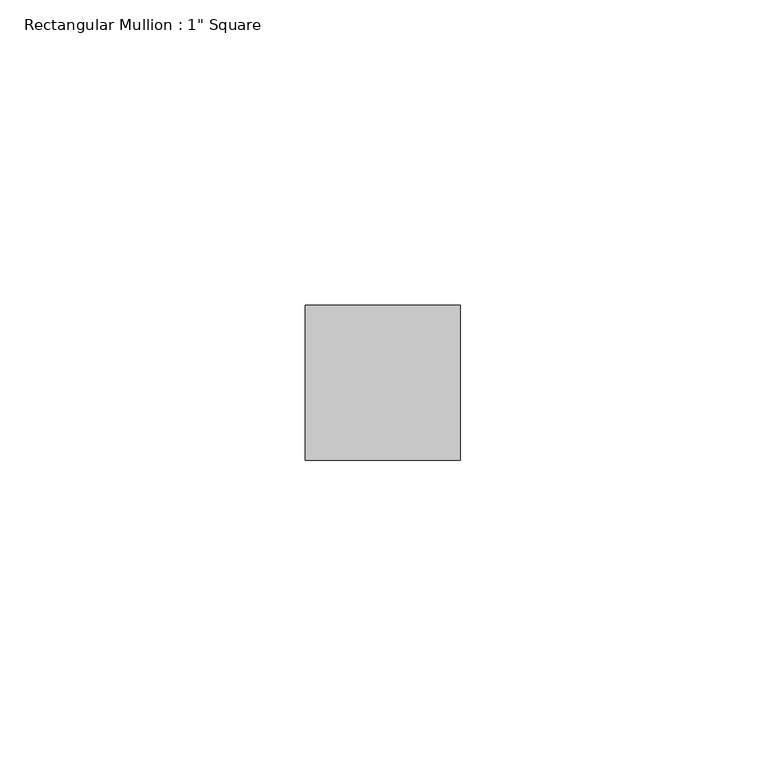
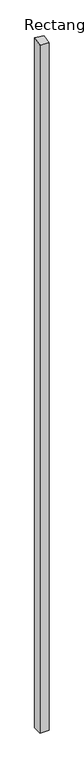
"""IFC4 building model written with IfcOpenShell, lengths in millimetres: member geometry."""

from ifc_helpers import new_model, si_unit, origin, place, context, project, spatial, faceted_brep, source, transform, mapped, element, save


def member_f72df3a2(model_context):
    return source(origin(), model_context, "Body", "Brep", [
        faceted_brep([(12.7, 12.7, -2022.8247208), (12.7, -12.7, -2022.8247208), (-12.7, -12.7, -2022.8247208), (-12.7, 12.7, -2022.8247208), (-12.7, 12.7, 3.9383109), (12.7, 12.7, 1.8614515), (-12.7, -12.7, -1.8614515), (12.7, -12.7, -3.9383109)], [[[0, 1, 2, 3]], [[4, 5, 0, 3]], [[6, 4, 3, 2]], [[7, 6, 2, 1]], [[5, 7, 1, 0]], [[5, 4, 6, 7]]]),
    ])


if __name__ == "__main__":
    model = new_model("IFC4")
    model_context = context("Model", 3, world=origin())
    ifc_project = project(units=[si_unit("LENGTHUNIT", "METRE", prefix="MILLI")], contexts=[model_context])
    site = spatial("IfcSite", under=ifc_project)
    building = spatial("IfcBuilding", under=site)
    placement = place(None, origin())
    member_shape = member_f72df3a2(model_context)
    element("IfcMember", 1, ObjectType="Rectangular Mullion : 1\" Square", at=placement, inside=building, context=model_context, shape_type="MappedRepresentation", body=[
        mapped(member_shape, transform((0.0, 0.0, 0.0), x_axis=(1.0, 0.0, 0.0), y_axis=(0.0, 1.0, 0.0), z_axis=(0.0, 0.0, 1.0))),
    ])
    save(model, "model.ifc")
